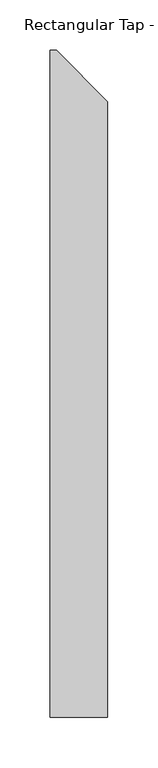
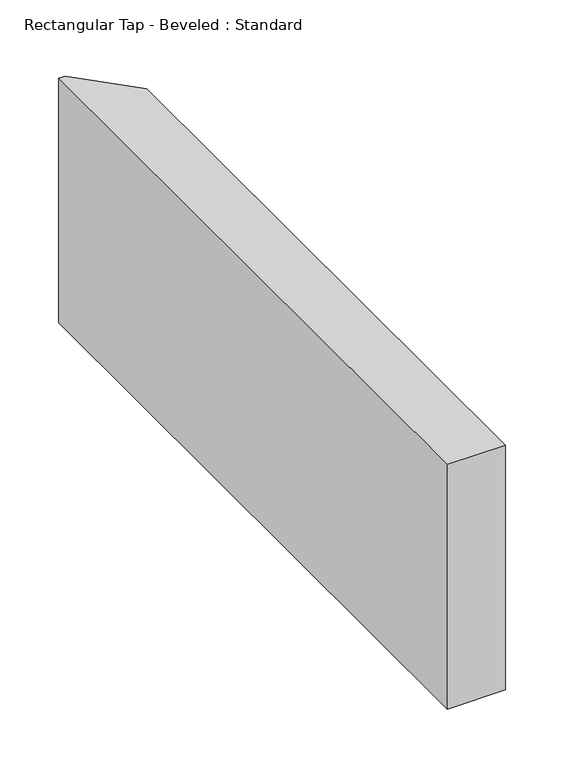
"""IFC4 building model written with IfcOpenShell, lengths in millimetres: duct fitting geometry, Rectangular Tap - Beveled : Standard."""

from ifc_helpers import new_model, si_unit, frame, origin, place, context, project, spatial, polyline, outline, extrude, source, transform, mapped, element, save


def rectangular_tap_beveled_standard_4401fc70(model_context):
    return source(origin(), model_context, "Body", "SweptSolid", [
        extrude(outline(polyline([(50.8, -304.8), (-6.096, -304.8), (-6.096, 355.6), (0.0, 355.6), (50.8, 304.8), (50.8, -304.8)])), frame((0.0, 0.0, -127.0), z_axis=(0.0, 0.0, 1.0), x_axis=(1.0, 0.0, 0.0)), (0.0, 0.0, 1.0), 254.0),
    ])


if __name__ == "__main__":
    model = new_model("IFC4")
    model_context = context("Model", 3, world=origin())
    ifc_project = project(units=[si_unit("LENGTHUNIT", "METRE", prefix="MILLI")], contexts=[model_context])
    site = spatial("IfcSite", under=ifc_project)
    building = spatial("IfcBuilding", under=site)
    placement = place(None, origin())
    rectangular_tap_beveled_standard_shape = rectangular_tap_beveled_standard_4401fc70(model_context)
    element("IfcDuctFitting", 1, ObjectType="Rectangular Tap - Beveled : Standard", at=placement, inside=building, context=model_context, shape_type="MappedRepresentation", body=[
        mapped(rectangular_tap_beveled_standard_shape, transform((0.0, 0.0, 0.0), x_axis=(1.0, 0.0, 0.0), y_axis=(0.0, 1.0, 0.0), z_axis=(0.0, 0.0, 1.0))),
    ])
    save(model, "model.ifc")
